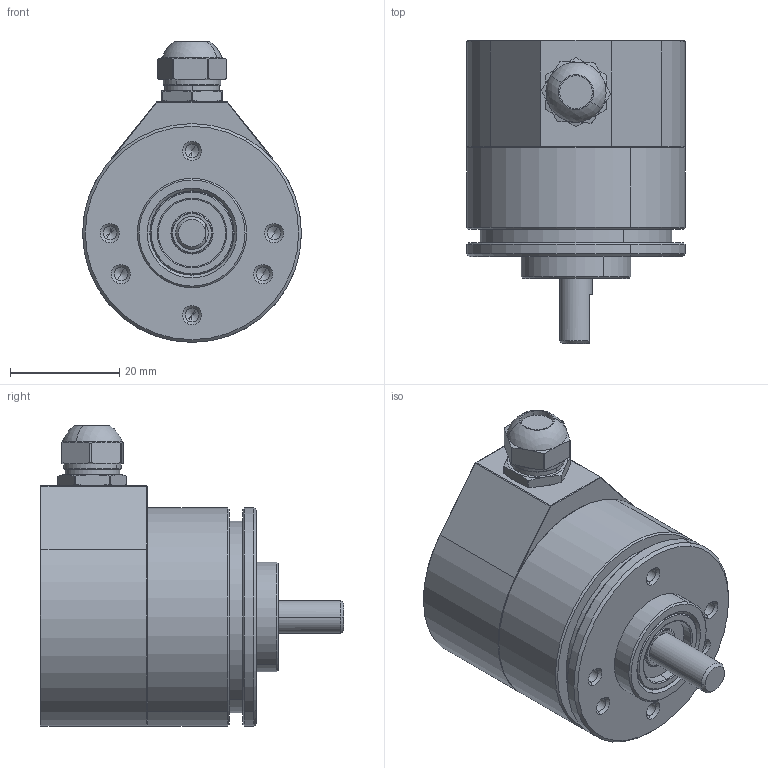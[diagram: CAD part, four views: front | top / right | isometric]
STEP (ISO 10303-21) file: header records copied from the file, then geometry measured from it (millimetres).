
FILE_DESCRIPTION (( 'STEP AP214' ), '1' );
FILE_NAME ('28-28xxR.STEP', '2026-01-30T13:15:16', ( '' ), ( '' ), 'SwSTEP 2.0', 'SolidWorks 2019', '' );
FILE_SCHEMA (( 'AUTOMOTIVE_DESIGN' ));
Length unit declared in the file: millimetre
Products named in the file (1): 28-28xxR
Bounding box: 40 x 55.42 x 55 mm (x, y, z)
Volume: 33495.9 mm3; surface area: 17104.6 mm2
Topology: 1 solids, 4 shells, 281 faces, 621 edges, 366 vertices
Faces by surface type: cylinder 102, cone 79, plane 62, sphere 26, torus 12
Entity records: 10860 total; most frequent: DIRECTION 1475, CARTESIAN_POINT 1417, ORIENTED_EDGE 1206, AXIS2_PLACEMENT_3D 624, EDGE_CURVE 603, VERTEX_POINT 366, CIRCLE 342, EDGE_LOOP 321
